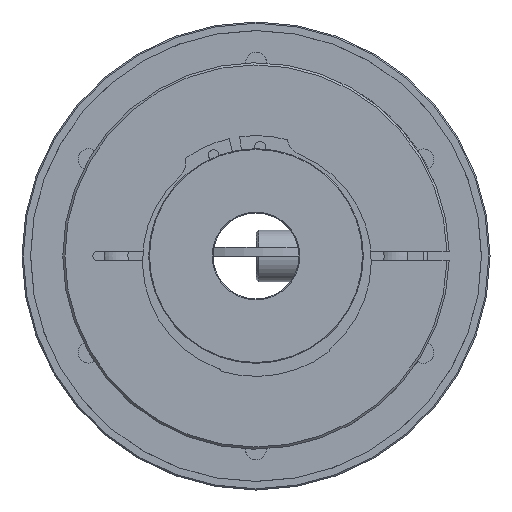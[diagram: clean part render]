
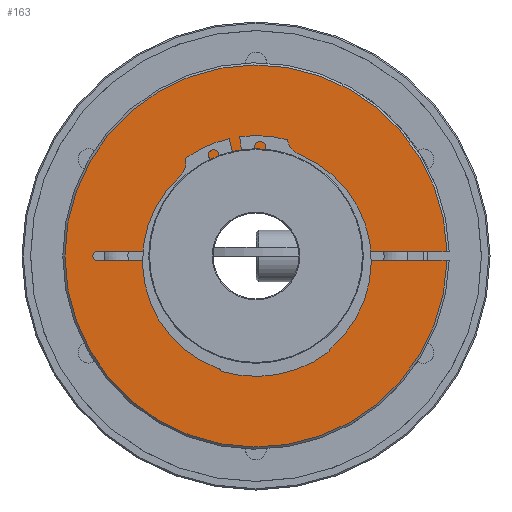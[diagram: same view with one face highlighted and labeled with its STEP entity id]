
A CAD part, left-side view. The second image highlights one B-rep face of the part: STEP entity #163.
In plain terms, the highlighted planar face has unit normal (-1, 0, 0).
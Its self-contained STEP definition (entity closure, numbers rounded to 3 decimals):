
#163 = ADVANCED_FACE( '', ( #274 ), #275, .F. );
#274 = FACE_OUTER_BOUND( '', #410, .T. );
#275 = PLANE( '', #411 );
#410 = EDGE_LOOP( '', ( #662, #663, #664, #665, #666, #667, #668, #669 ) );
#411 = AXIS2_PLACEMENT_3D( '', #670, #671, #672 );
#662 = ORIENTED_EDGE( '', *, *, #1187, .T. );
#663 = ORIENTED_EDGE( '', *, *, #1172, .T. );
#664 = ORIENTED_EDGE( '', *, *, #1188, .T. );
#665 = ORIENTED_EDGE( '', *, *, #1189, .T. );
#666 = ORIENTED_EDGE( '', *, *, #1190, .T. );
#667 = ORIENTED_EDGE( '', *, *, #1191, .T. );
#668 = ORIENTED_EDGE( '', *, *, #1192, .T. );
#669 = ORIENTED_EDGE( '', *, *, #1180, .T. );
#670 = CARTESIAN_POINT( '', ( -28., 45., 0. ) );
#671 = DIRECTION( '', ( 1., 0., 0. ) );
#672 = DIRECTION( '', ( 0., 1., 0. ) );
#1172 = EDGE_CURVE( '', #1600, #1604, #1606, .F. );
#1180 = EDGE_CURVE( '', #1620, #1617, #1621, .T. );
#1187 = EDGE_CURVE( '', #1617, #1600, #1631, .T. );
#1188 = EDGE_CURVE( '', #1604, #1632, #1633, .T. );
#1189 = EDGE_CURVE( '', #1632, #1634, #1635, .T. );
#1190 = EDGE_CURVE( '', #1634, #1636, #1637, .T. );
#1191 = EDGE_CURVE( '', #1636, #1638, #1639, .T. );
#1192 = EDGE_CURVE( '', #1638, #1620, #1640, .T. );
#1600 = VERTEX_POINT( '', #2397 );
#1604 = VERTEX_POINT( '', #2404 );
#1606 = CIRCLE( '', #2409, 44.5 );
#1617 = VERTEX_POINT( '', #2426 );
#1620 = VERTEX_POINT( '', #2432 );
#1621 = CIRCLE( '', #2433, 23. );
#1631 = LINE( '', #2513, #2514 );
#1632 = VERTEX_POINT( '', #2515 );
#1633 = LINE( '', #2516, #2517 );
#1634 = VERTEX_POINT( '', #2518 );
#1635 = CIRCLE( '', #2519, 23. );
#1636 = VERTEX_POINT( '', #2520 );
#1637 = LINE( '', #2521, #2522 );
#1638 = VERTEX_POINT( '', #2523 );
#1639 = CIRCLE( '', #2524, 1. );
#1640 = LINE( '', #2525, #2526 );
#2397 = CARTESIAN_POINT( '', ( -28., -44.489, 1. ) );
#2404 = CARTESIAN_POINT( '', ( -28., -44.489, -1. ) );
#2409 = AXIS2_PLACEMENT_3D( '', #2884, #2885, #2886 );
#2426 = CARTESIAN_POINT( '', ( -28., -22.978, 1. ) );
#2432 = CARTESIAN_POINT( '', ( -28., 22.978, 1. ) );
#2433 = AXIS2_PLACEMENT_3D( '', #2893, #2894, #2895 );
#2513 = CARTESIAN_POINT( '', ( -28., 45., 1. ) );
#2514 = VECTOR( '', #2902, 1000. );
#2515 = CARTESIAN_POINT( '', ( -28., -22.978, -1. ) );
#2516 = CARTESIAN_POINT( '', ( -28., 45., -1. ) );
#2517 = VECTOR( '', #2903, 1000. );
#2518 = CARTESIAN_POINT( '', ( -28., 22.978, -1. ) );
#2519 = AXIS2_PLACEMENT_3D( '', #2904, #2905, #2906 );
#2520 = CARTESIAN_POINT( '', ( -28., 37., -1. ) );
#2521 = CARTESIAN_POINT( '', ( -28., 45., -1. ) );
#2522 = VECTOR( '', #2907, 1000. );
#2523 = CARTESIAN_POINT( '', ( -28., 37., 1. ) );
#2524 = AXIS2_PLACEMENT_3D( '', #2908, #2909, #2910 );
#2525 = CARTESIAN_POINT( '', ( -28., 45., 1. ) );
#2526 = VECTOR( '', #2911, 1000. );
#2884 = CARTESIAN_POINT( '', ( -28., 0., 0. ) );
#2885 = DIRECTION( '', ( 1., 0., 0. ) );
#2886 = DIRECTION( '', ( 0., 0., -1. ) );
#2893 = CARTESIAN_POINT( '', ( -28., 0., 0. ) );
#2894 = DIRECTION( '', ( 1., 0., 0. ) );
#2895 = DIRECTION( '', ( 0., 0., -1. ) );
#2902 = DIRECTION( '', ( 0., -1., 0. ) );
#2903 = DIRECTION( '', ( 0., 1., 0. ) );
#2904 = CARTESIAN_POINT( '', ( -28., 0., 0. ) );
#2905 = DIRECTION( '', ( 1., 0., 0. ) );
#2906 = DIRECTION( '', ( 0., 0., -1. ) );
#2907 = DIRECTION( '', ( 0., 1., 0. ) );
#2908 = CARTESIAN_POINT( '', ( -28., 37., 0. ) );
#2909 = DIRECTION( '', ( 1., 0., 0. ) );
#2910 = DIRECTION( '', ( 0., 0., -1. ) );
#2911 = DIRECTION( '', ( 0., -1., 0. ) );
